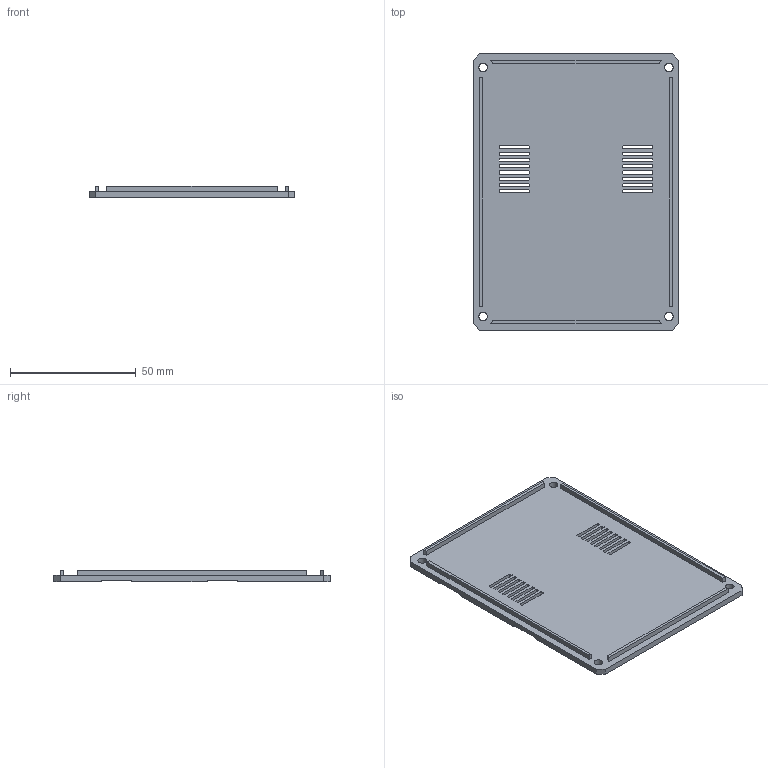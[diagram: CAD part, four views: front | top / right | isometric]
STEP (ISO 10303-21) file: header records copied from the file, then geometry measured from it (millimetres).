
FILE_DESCRIPTION(('Open CASCADE Model'),'2;1');
FILE_NAME('Open CASCADE Shape Model','2026-09-07T22:52:32',('Author'),( 'Open CASCADE'),'Open CASCADE STEP processor 7.9','build123d', 'Unknown');
FILE_SCHEMA(('AUTOMOTIVE_DESIGN { 1 0 10303 214 1 1 1 1 }'));
Length unit declared in the file: millimetre
Products named in the file (2): =>[0:1:1:2]; COMPOUND
Assembly tree (1 placements, depth 2):
  =>[0:1:1:2]
    COMPOUND
Bounding box: 82 x 110 x 4.4 mm (x, y, z)
Volume: 20216.3 mm3; surface area: 21243.2 mm2
Topology: 1 solids, 1 shells, 340 faces, 1029 edges, 686 vertices
Faces by surface type: plane 304, extrusion 24, cylinder 12
Full cylindrical faces by diameter (mm): 3.4 x4
Entity records: 24816 total; most frequent: CARTESIAN_POINT 5985, DIRECTION 2843, VECTOR 2135, LINE 2111, ORIENTED_EDGE 2058, PCURVE 2058, DEFINITIONAL_REPRESENTATION 2058, EDGE_CURVE 1029
